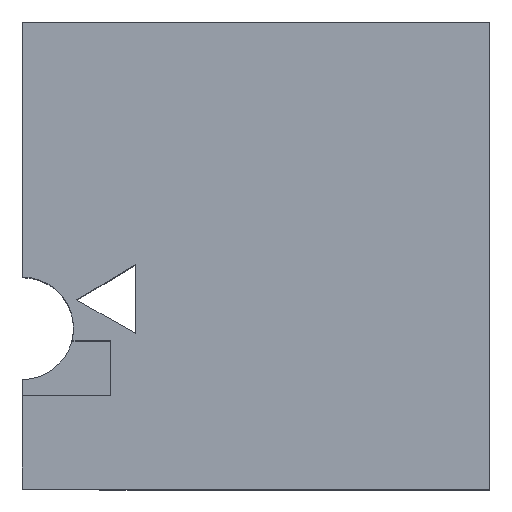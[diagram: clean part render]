
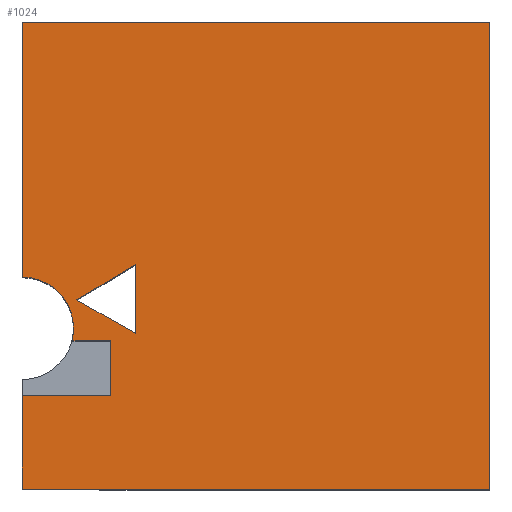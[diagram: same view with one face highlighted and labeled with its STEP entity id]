
A CAD part, top view. The second image highlights one B-rep face of the part: STEP entity #1024.
In plain terms, the highlighted planar face has unit normal (0, 0, 1).
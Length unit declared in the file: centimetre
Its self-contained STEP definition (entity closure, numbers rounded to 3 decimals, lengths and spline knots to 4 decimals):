
#35 = LINE ( 'NONE', #1084, #81 ) ;
#81 = VECTOR ( 'NONE', #1475, 100. ) ;
#85 = LINE ( 'NONE', #1149, #190 ) ;
#99 = VERTEX_POINT ( 'NONE', #1321 ) ;
#147 = CARTESIAN_POINT ( 'NONE',  ( 0., 200.8039, 1000. ) ) ;
#150 = EDGE_LOOP ( 'NONE', ( #575, #1070, #1675, #316, #1123, #1615, #525, #418, #1343, #1527 ) ) ;
#151 = VERTEX_POINT ( 'NONE', #173 ) ;
#156 = DIRECTION ( 'NONE',  ( 1., 0., 0. ) ) ;
#162 = DIRECTION ( 'NONE',  ( 0., 0., 1. ) ) ;
#173 = CARTESIAN_POINT ( 'NONE',  ( 242.1684, 480.9598, 1000. ) ) ;
#190 = VECTOR ( 'NONE', #1674, 100. ) ;
#216 = CARTESIAN_POINT ( 'NONE',  ( 0., 0., 1000. ) ) ;
#218 = EDGE_CURVE ( 'NONE', #874, #151, #645, .T. ) ;
#265 = CARTESIAN_POINT ( 'NONE',  ( 0., 1000., 1000. ) ) ;
#280 = EDGE_CURVE ( 'NONE', #884, #930, #938, .T. ) ;
#287 = VECTOR ( 'NONE', #156, 100. ) ;
#316 = ORIENTED_EDGE ( 'NONE', *, *, #280, .T. ) ;
#317 = EDGE_CURVE ( 'NONE', #930, #755, #522, .T. ) ;
#347 = CARTESIAN_POINT ( 'NONE',  ( 0., 344.5652, 1000. ) ) ;
#355 = EDGE_CURVE ( 'NONE', #1423, #99, #35, .T. ) ;
#367 = CIRCLE ( 'NONE', #1104, 109.426 ) ;
#385 = DIRECTION ( 'NONE',  ( -1., 0., 0. ) ) ;
#418 = ORIENTED_EDGE ( 'NONE', *, *, #355, .T. ) ;
#424 = LINE ( 'NONE', #961, #644 ) ;
#432 = LINE ( 'NONE', #147, #485 ) ;
#485 = VECTOR ( 'NONE', #1085, 100. ) ;
#493 = CARTESIAN_POINT ( 'NONE',  ( 109.426, 344.5652, 1000. ) ) ;
#522 = LINE ( 'NONE', #950, #287 ) ;
#525 = ORIENTED_EDGE ( 'NONE', *, *, #550, .T. ) ;
#536 = ORIENTED_EDGE ( 'NONE', *, *, #651, .T. ) ;
#550 = EDGE_CURVE ( 'NONE', #1012, #1423, #574, .T. ) ;
#574 = LINE ( 'NONE', #1607, #1124 ) ;
#575 = ORIENTED_EDGE ( 'NONE', *, *, #739, .F. ) ;
#644 = VECTOR ( 'NONE', #1463, 100. ) ;
#645 = LINE ( 'NONE', #1297, #1599 ) ;
#649 = CARTESIAN_POINT ( 'NONE',  ( 189.2979, 317.4156, 1000. ) ) ;
#651 = EDGE_CURVE ( 'NONE', #151, #697, #724, .T. ) ;
#697 = VERTEX_POINT ( 'NONE', #1283 ) ;
#701 = DIRECTION ( 'NONE',  ( 1., 0., 0. ) ) ;
#724 = LINE ( 'NONE', #990, #1579 ) ;
#728 = VERTEX_POINT ( 'NONE', #649 ) ;
#739 = EDGE_CURVE ( 'NONE', #728, #829, #934, .T. ) ;
#755 = VERTEX_POINT ( 'NONE', #1722 ) ;
#776 = AXIS2_PLACEMENT_3D ( 'NONE', #1347, #162, #701 ) ;
#829 = VERTEX_POINT ( 'NONE', #1049 ) ;
#858 = CARTESIAN_POINT ( 'NONE',  ( 189.2979, 200.8039, 1000. ) ) ;
#874 = VERTEX_POINT ( 'NONE', #1452 ) ;
#884 = VERTEX_POINT ( 'NONE', #1694 ) ;
#889 = DIRECTION ( 'NONE',  ( 0., 0., 1. ) ) ;
#900 = VERTEX_POINT ( 'NONE', #493 ) ;
#917 = EDGE_CURVE ( 'NONE', #884, #1616, #432, .T. ) ;
#930 = VERTEX_POINT ( 'NONE', #1373 ) ;
#934 = LINE ( 'NONE', #1435, #980 ) ;
#938 = LINE ( 'NONE', #265, #1178 ) ;
#950 = CARTESIAN_POINT ( 'NONE',  ( 0., 0., 1000. ) ) ;
#951 = FACE_BOUND ( 'NONE', #1116, .T. ) ;
#961 = CARTESIAN_POINT ( 'NONE',  ( 189.2979, 200.8039, 1000. ) ) ;
#980 = VECTOR ( 'NONE', #385, 100. ) ;
#990 = CARTESIAN_POINT ( 'NONE',  ( 242.1684, 333.8143, 1000. ) ) ;
#1006 = DIRECTION ( 'NONE',  ( 1., 0., 0. ) ) ;
#1012 = VERTEX_POINT ( 'NONE', #1365 ) ;
#1019 = EDGE_CURVE ( 'NONE', #1616, #728, #424, .T. ) ;
#1024 = ADVANCED_FACE ( 'NONE', ( #1613, #951 ), #1476, .T. ) ;
#1031 = AXIS2_PLACEMENT_3D ( 'NONE', #216, #1531, #1134 ) ;
#1049 = CARTESIAN_POINT ( 'NONE',  ( 106.0045, 317.4156, 1000. ) ) ;
#1070 = ORIENTED_EDGE ( 'NONE', *, *, #1019, .F. ) ;
#1073 = CARTESIAN_POINT ( 'NONE',  ( 116.1286, 404.9763, 1000. ) ) ;
#1084 = CARTESIAN_POINT ( 'NONE',  ( 0., 1000., 1000. ) ) ;
#1085 = DIRECTION ( 'NONE',  ( 1., 0., 0. ) ) ;
#1100 = DIRECTION ( 'NONE',  ( -1., 0., 0. ) ) ;
#1104 = AXIS2_PLACEMENT_3D ( 'NONE', #347, #889, #1006 ) ;
#1116 = EDGE_LOOP ( 'NONE', ( #536, #1530, #1478 ) ) ;
#1123 = ORIENTED_EDGE ( 'NONE', *, *, #317, .T. ) ;
#1124 = VECTOR ( 'NONE', #1100, 100. ) ;
#1134 = DIRECTION ( 'NONE',  ( 1., 0., 0. ) ) ;
#1149 = CARTESIAN_POINT ( 'NONE',  ( 1000., 1000., 1000. ) ) ;
#1168 = EDGE_CURVE ( 'NONE', #829, #900, #367, .T. ) ;
#1178 = VECTOR ( 'NONE', #1612, 100. ) ;
#1194 = LINE ( 'NONE', #1073, #1523 ) ;
#1246 = EDGE_CURVE ( 'NONE', #697, #874, #1194, .T. ) ;
#1283 = CARTESIAN_POINT ( 'NONE',  ( 242.1684, 333.8143, 1000. ) ) ;
#1297 = CARTESIAN_POINT ( 'NONE',  ( 242.1684, 480.9598, 1000. ) ) ;
#1321 = CARTESIAN_POINT ( 'NONE',  ( 0., 453.9912, 1000. ) ) ;
#1329 = CIRCLE ( 'NONE', #776, 109.426 ) ;
#1343 = ORIENTED_EDGE ( 'NONE', *, *, #1470, .F. ) ;
#1347 = CARTESIAN_POINT ( 'NONE',  ( 0., 344.5652, 1000. ) ) ;
#1365 = CARTESIAN_POINT ( 'NONE',  ( 1000., 1000., 1000. ) ) ;
#1373 = CARTESIAN_POINT ( 'NONE',  ( 0., 0., 1000. ) ) ;
#1378 = EDGE_CURVE ( 'NONE', #755, #1012, #85, .T. ) ;
#1412 = CARTESIAN_POINT ( 'NONE',  ( 0., 1000., 1000. ) ) ;
#1423 = VERTEX_POINT ( 'NONE', #1412 ) ;
#1435 = CARTESIAN_POINT ( 'NONE',  ( 0., 317.4156, 1000. ) ) ;
#1452 = CARTESIAN_POINT ( 'NONE',  ( 116.1286, 404.9763, 1000. ) ) ;
#1463 = DIRECTION ( 'NONE',  ( 0., 1., 0. ) ) ;
#1470 = EDGE_CURVE ( 'NONE', #900, #99, #1329, .T. ) ;
#1475 = DIRECTION ( 'NONE',  ( 0., -1., 0. ) ) ;
#1476 = PLANE ( 'NONE',  #1031 ) ;
#1478 = ORIENTED_EDGE ( 'NONE', *, *, #218, .T. ) ;
#1523 = VECTOR ( 'NONE', #1610, 100. ) ;
#1527 = ORIENTED_EDGE ( 'NONE', *, *, #1168, .F. ) ;
#1530 = ORIENTED_EDGE ( 'NONE', *, *, #1246, .T. ) ;
#1531 = DIRECTION ( 'NONE',  ( 0., 0., 1. ) ) ;
#1570 = DIRECTION ( 'NONE',  ( 0., -1., 0. ) ) ;
#1579 = VECTOR ( 'NONE', #1570, 100. ) ;
#1599 = VECTOR ( 'NONE', #1702, 100. ) ;
#1607 = CARTESIAN_POINT ( 'NONE',  ( 0., 1000., 1000. ) ) ;
#1610 = DIRECTION ( 'NONE',  ( -0.871, 0.492, 0. ) ) ;
#1612 = DIRECTION ( 'NONE',  ( 0., -1., 0. ) ) ;
#1613 = FACE_OUTER_BOUND ( 'NONE', #150, .T. ) ;
#1615 = ORIENTED_EDGE ( 'NONE', *, *, #1378, .T. ) ;
#1616 = VERTEX_POINT ( 'NONE', #858 ) ;
#1674 = DIRECTION ( 'NONE',  ( 0., 1., 0. ) ) ;
#1675 = ORIENTED_EDGE ( 'NONE', *, *, #917, .F. ) ;
#1694 = CARTESIAN_POINT ( 'NONE',  ( 0., 200.8039, 1000. ) ) ;
#1702 = DIRECTION ( 'NONE',  ( 0.856, 0.516, 0. ) ) ;
#1722 = CARTESIAN_POINT ( 'NONE',  ( 1000., 0., 1000. ) ) ;
